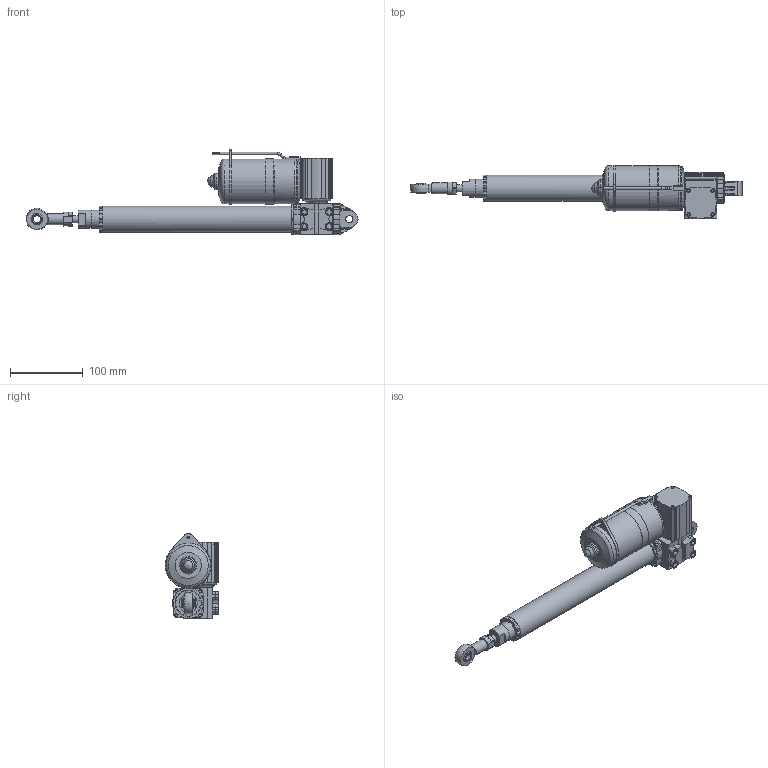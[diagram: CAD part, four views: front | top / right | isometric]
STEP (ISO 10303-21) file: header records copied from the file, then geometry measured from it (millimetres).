
FILE_DESCRIPTION(/* description */ ('STEP AP203'),/* implementation_level */ '2;1');
FILE_NAME(/* name */ 'ALI2-P_0250_M05_CC-24-61_5-4000_M0_E01_P1_A40',/* time_stamp */ '2026-05-05T14:26:09+02:00',/* author */ ('License CC BY-ND 4.0'),/* organization */ ('CADENAS'),/* preprocessor_version */ 'ST-DEVELOPER v20',/* originating_system */ 'PARTsolutions',/* authorisation */ ' ');
FILE_SCHEMA (('CONFIG_CONTROL_DESIGN'));
Length unit declared in the file: millimetre
Products named in the file (6): ALI2-P/0250/M05/CC-24-61,5-4000/M0/E01/P1/A40;  250 0 0    corpoali2p; MMP4; AP_ALI2_ap;  250   asta ali2p-pf; C4
Assembly tree (5 placements, depth 2):
  ALI2-P/0250/M05/CC-24-61,5-4000/M0/E01/P1/A40
     250 0 0    corpoali2p
    MMP4
    AP_ALI2_ap
     250   asta ali2p-pf
    C4
Bounding box: 457 x 73.71 x 117.8 mm (x, y, z)
Volume: 923347 mm3; surface area: 153360.2 mm2
Topology: 5 solids, 5 shells, 564 faces, 1452 edges, 961 vertices
Faces by surface type: plane 386, cylinder 153, torus 14, cone 7, sphere 4
Full cylindrical faces by diameter (mm): 1.4 x2, 3.4 x1, 3.5 x2, 4.3 x2, 4.4 x1, 4.5 x2, 4.6 x2, 4.8 x4, 5 x4, 9 x8, 10 x7, 15 x1, 22.7 x1, 25 x3, 25.914 x1, 26 x1, 26.996 x1, 36 x1, 42 x1, 61.5 x3, 62.5 x1
Entity records: 16826 total; most frequent: CARTESIAN_POINT 3024, DIRECTION 2862, ORIENTED_EDGE 2732, EDGE_CURVE 1366, AXIS2_PLACEMENT_3D 966, VERTEX_POINT 940, LINE 930, VECTOR 930
